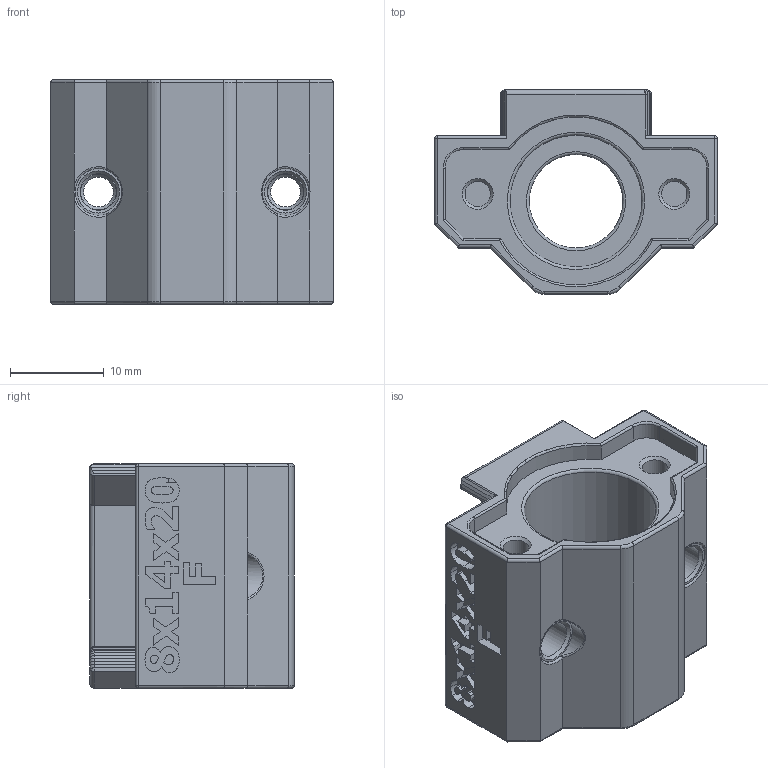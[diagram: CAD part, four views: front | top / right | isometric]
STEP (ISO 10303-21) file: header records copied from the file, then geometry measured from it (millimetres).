
FILE_DESCRIPTION(/* description */ ('3D-Druck'),/* implementation_level */ '2;1');
FILE_NAME(/* name */ '\\7800MBZ-PC\Maschinenbau-Projekte\Prusa_MK3_CAD\Linearlager\Linearlager-Sinterbuchsen-MK3-Y-Achse\Export_Step\PrusaMods_Y-Axis_Bearing_Holder_RJ4JP_+0.10_Festlager.stp',/* time_stamp */ '2023-04-06T12:46:41+02:00',/* author */ ('KHG'),/* organization */ (''),/* preprocessor_version */ 'ST-DEVELOPER v18.1',/* originating_system */ 'Autodesk Inventor 2020',/* authorisation */ 'Unknown');
FILE_SCHEMA (('AUTOMOTIVE_DESIGN { 1 0 10303 214 3 1 1 }'));
Length unit declared in the file: millimetre
Products named in the file (1): Bearing_Holder_RJ4JP_+0.10_Festlager
Bounding box: 30.2 x 21.86 x 24 mm (x, y, z)
Volume: 7042.2 mm3; surface area: 4785.7 mm2
Topology: 1 solids, 1 shells, 432 faces, 1117 edges, 717 vertices
Faces by surface type: plane 228, bspline 94, cylinder 85, torus 13, cone 8, sphere 4
Full cylindrical faces by diameter (mm): 2.7 x2, 3.2 x2, 3.9 x2, 5 x2, 10 x1, 14.1 x1
Entity records: 13831 total; most frequent: CARTESIAN_POINT 3784, ORIENTED_EDGE 2234, DIRECTION 1759, EDGE_CURVE 1117, LINE 757, VECTOR 757, VERTEX_POINT 717, AXIS2_PLACEMENT_3D 501
